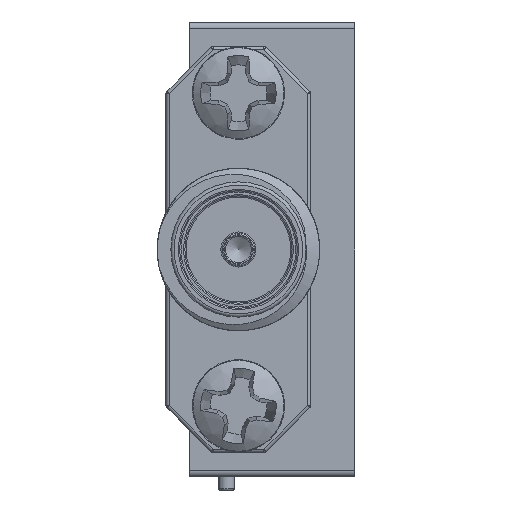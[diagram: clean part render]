
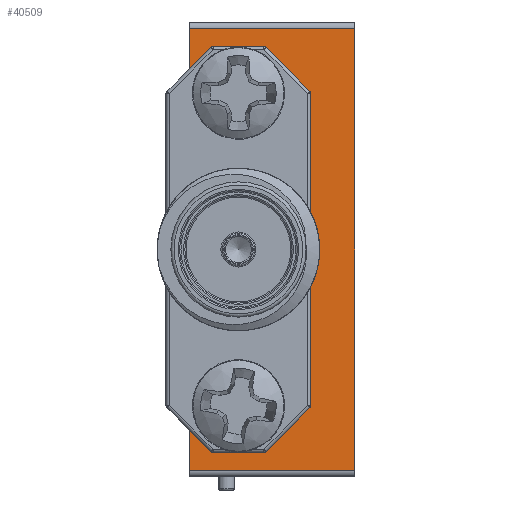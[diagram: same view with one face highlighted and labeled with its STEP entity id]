
A CAD part, left-side view. The second image highlights one B-rep face of the part: STEP entity #40509.
In plain terms, the highlighted planar face has unit normal (-1, 0, 0).
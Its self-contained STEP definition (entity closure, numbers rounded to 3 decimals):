
#460 = VECTOR ( 'NONE', #20349, 1000. ) ;
#1040 = EDGE_CURVE ( 'NONE', #11267, #11267, #17854, .T. ) ;
#1349 = ORIENTED_EDGE ( 'NONE', *, *, #23261, .F. ) ;
#1907 = ORIENTED_EDGE ( 'NONE', *, *, #34737, .F. ) ;
#1911 = VERTEX_POINT ( 'NONE', #17450 ) ;
#1925 = CARTESIAN_POINT ( 'NONE',  ( 0.076, -0.762, -9.449 ) ) ;
#2532 = CARTESIAN_POINT ( 'NONE',  ( 0.076, -4.521, -9.449 ) ) ;
#2915 = VECTOR ( 'NONE', #4855, 1000. ) ;
#3340 = FACE_BOUND ( 'NONE', #21399, .T. ) ;
#3478 = VERTEX_POINT ( 'NONE', #35508 ) ;
#3687 = CARTESIAN_POINT ( 'NONE',  ( 0.076, -7.239, 4.064 ) ) ;
#4282 = DIRECTION ( 'NONE',  ( 0., 0., 1. ) ) ;
#4557 = ORIENTED_EDGE ( 'NONE', *, *, #25698, .F. ) ;
#4855 = DIRECTION ( 'NONE',  ( 0., 0., 1. ) ) ;
#5868 = EDGE_CURVE ( 'NONE', #12233, #39315, #40533, .T. ) ;
#6001 = CARTESIAN_POINT ( 'NONE',  ( 0.076, -7.239, 4.318 ) ) ;
#7660 = EDGE_CURVE ( 'NONE', #11561, #1911, #37868, .T. ) ;
#7680 = EDGE_CURVE ( 'NONE', #20582, #30029, #11365, .T. ) ;
#9459 = CARTESIAN_POINT ( 'NONE',  ( 0.076, -7.239, 4.318 ) ) ;
#10495 = DIRECTION ( 'NONE',  ( -1., 0., 0. ) ) ;
#10709 = DIRECTION ( 'NONE',  ( 0., 0., 1. ) ) ;
#11267 = VERTEX_POINT ( 'NONE', #39098 ) ;
#11365 = LINE ( 'NONE', #27618, #31332 ) ;
#11561 = VERTEX_POINT ( 'NONE', #19984 ) ;
#11787 = LINE ( 'NONE', #29348, #34585 ) ;
#11846 = ORIENTED_EDGE ( 'NONE', *, *, #29124, .T. ) ;
#11864 = FACE_OUTER_BOUND ( 'NONE', #23013, .T. ) ;
#12233 = VERTEX_POINT ( 'NONE', #37708 ) ;
#13843 = CARTESIAN_POINT ( 'NONE',  ( 0.076, -2.692, 1.537 ) ) ;
#14121 = CARTESIAN_POINT ( 'NONE',  ( 0.076, -2.692, -10.681 ) ) ;
#14340 = AXIS2_PLACEMENT_3D ( 'NONE', #6001, #43757, #33200 ) ;
#15211 = VECTOR ( 'NONE', #23096, 1000. ) ;
#16407 = DIRECTION ( 'NONE',  ( 0., 1., 0. ) ) ;
#17125 = AXIS2_PLACEMENT_3D ( 'NONE', #14121, #37948, #4282 ) ;
#17445 = CARTESIAN_POINT ( 'NONE',  ( 0.076, -0.762, 0.051 ) ) ;
#17450 = CARTESIAN_POINT ( 'NONE',  ( 0.076, -7.239, -13.208 ) ) ;
#17575 = CARTESIAN_POINT ( 'NONE',  ( 0.076, -7.239, -13.208 ) ) ;
#17854 = CIRCLE ( 'NONE', #17125, 1.092 ) ;
#18733 = CARTESIAN_POINT ( 'NONE',  ( 0.076, -2.692, 2.629 ) ) ;
#19348 = ORIENTED_EDGE ( 'NONE', *, *, #5868, .T. ) ;
#19984 = CARTESIAN_POINT ( 'NONE',  ( 0.076, -0.762, -13.208 ) ) ;
#20349 = DIRECTION ( 'NONE',  ( 0., 0., 1. ) ) ;
#20457 = LINE ( 'NONE', #26930, #38697 ) ;
#20582 = VERTEX_POINT ( 'NONE', #2532 ) ;
#21399 = EDGE_LOOP ( 'NONE', ( #37252 ) ) ;
#23013 = EDGE_LOOP ( 'NONE', ( #33684, #33408, #40729, #31301, #1349, #19348, #1907, #11846 ) ) ;
#23096 = DIRECTION ( 'NONE',  ( 0., 0., -1. ) ) ;
#23261 = EDGE_CURVE ( 'NONE', #12233, #1911, #40039, .T. ) ;
#24069 = DIRECTION ( 'NONE',  ( 0., 0., 1. ) ) ;
#24306 = DIRECTION ( 'NONE',  ( 0., -1., 0. ) ) ;
#25698 = EDGE_CURVE ( 'NONE', #26321, #26321, #40028, .T. ) ;
#26321 = VERTEX_POINT ( 'NONE', #18733 ) ;
#26930 = CARTESIAN_POINT ( 'NONE',  ( 0.076, -4.521, -9.195 ) ) ;
#27618 = CARTESIAN_POINT ( 'NONE',  ( 0.076, -7.239, -9.449 ) ) ;
#28418 = VERTEX_POINT ( 'NONE', #37327 ) ;
#28507 = CARTESIAN_POINT ( 'NONE',  ( 0.076, -0.762, -13.462 ) ) ;
#29124 = EDGE_CURVE ( 'NONE', #28418, #3478, #11787, .T. ) ;
#29281 = LINE ( 'NONE', #17445, #460 ) ;
#29348 = CARTESIAN_POINT ( 'NONE',  ( 0.076, -7.239, 0.305 ) ) ;
#30029 = VERTEX_POINT ( 'NONE', #1925 ) ;
#31301 = ORIENTED_EDGE ( 'NONE', *, *, #7660, .T. ) ;
#31332 = VECTOR ( 'NONE', #34276, 1000. ) ;
#31461 = EDGE_CURVE ( 'NONE', #20582, #3478, #20457, .T. ) ;
#32019 = VECTOR ( 'NONE', #24306, 1000. ) ;
#32137 = AXIS2_PLACEMENT_3D ( 'NONE', #13843, #10495, #10709 ) ;
#33200 = DIRECTION ( 'NONE',  ( 0., 0., -1. ) ) ;
#33408 = ORIENTED_EDGE ( 'NONE', *, *, #7680, .T. ) ;
#33631 = PLANE ( 'NONE',  #14340 ) ;
#33684 = ORIENTED_EDGE ( 'NONE', *, *, #31461, .F. ) ;
#33699 = EDGE_LOOP ( 'NONE', ( #4557 ) ) ;
#34276 = DIRECTION ( 'NONE',  ( 0., 1., 0. ) ) ;
#34585 = VECTOR ( 'NONE', #36040, 1000. ) ;
#34737 = EDGE_CURVE ( 'NONE', #28418, #39315, #29281, .T. ) ;
#35449 = FACE_BOUND ( 'NONE', #33699, .T. ) ;
#35508 = CARTESIAN_POINT ( 'NONE',  ( 0.076, -4.521, 0.305 ) ) ;
#36040 = DIRECTION ( 'NONE',  ( 0., -1., 0. ) ) ;
#37252 = ORIENTED_EDGE ( 'NONE', *, *, #1040, .F. ) ;
#37327 = CARTESIAN_POINT ( 'NONE',  ( 0.076, -0.762, 0.305 ) ) ;
#37555 = CARTESIAN_POINT ( 'NONE',  ( 0.076, -0.762, 4.064 ) ) ;
#37708 = CARTESIAN_POINT ( 'NONE',  ( 0.076, -7.239, 4.064 ) ) ;
#37868 = LINE ( 'NONE', #17575, #32019 ) ;
#37948 = DIRECTION ( 'NONE',  ( -1., 0., 0. ) ) ;
#38697 = VECTOR ( 'NONE', #24069, 1000. ) ;
#39098 = CARTESIAN_POINT ( 'NONE',  ( 0.076, -2.692, -9.588 ) ) ;
#39315 = VERTEX_POINT ( 'NONE', #37555 ) ;
#40028 = CIRCLE ( 'NONE', #32137, 1.092 ) ;
#40039 = LINE ( 'NONE', #9459, #15211 ) ;
#40387 = VECTOR ( 'NONE', #16407, 1000. ) ;
#40509 = ADVANCED_FACE ( 'NONE', ( #35449, #11864, #3340 ), #33631, .F. ) ;
#40533 = LINE ( 'NONE', #3687, #40387 ) ;
#40691 = EDGE_CURVE ( 'NONE', #11561, #30029, #42150, .T. ) ;
#40729 = ORIENTED_EDGE ( 'NONE', *, *, #40691, .F. ) ;
#42150 = LINE ( 'NONE', #28507, #2915 ) ;
#43757 = DIRECTION ( 'NONE',  ( 1., 0., 0. ) ) ;
